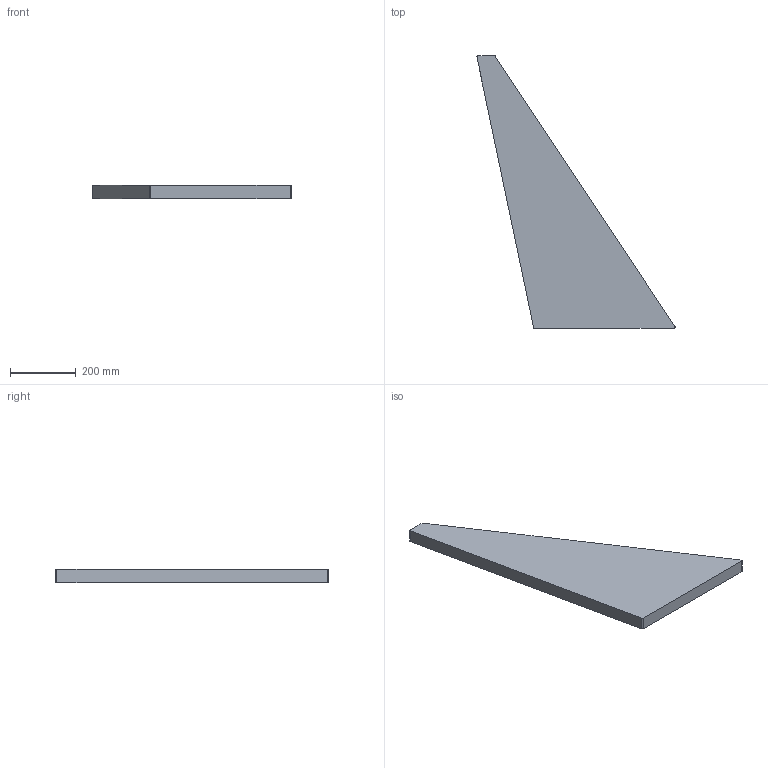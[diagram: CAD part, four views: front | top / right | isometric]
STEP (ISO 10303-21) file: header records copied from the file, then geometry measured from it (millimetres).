
FILE_DESCRIPTION(/* description */ (''),/* implementation_level */ '2;1');
FILE_NAME(/* name */ 'Pos105-Hout D= 40-Hout-3st',/* time_stamp */ '2024-08-06T13:37:43+02:00',/* author */ (''),/* organization */ (''),/* preprocessor_version */ 'ST-DEVELOPER v16.5',/* originating_system */ 'HiCAD 2024 2901.2 Build 361',/* authorisation */ '');
FILE_SCHEMA (('AUTOMOTIVE_DESIGN { 1 0 10303 214 1 1 1 1 }'));
Length unit declared in the file: millimetre
Products named in the file (2): Pos105-Hout D= 40-Hout-3st; Pos0-Antislip-Rubber-0st
Assembly tree (1 placements, depth 2):
  Pos105-Hout D= 40-Hout-3st
    Pos0-Antislip-Rubber-0st
Bounding box: 603.91 x 830 x 40 mm (x, y, z)
Volume: 8116172.7 mm3; surface area: 498835.7 mm2
Topology: 1 solids, 1 shells, 10 faces, 24 edges, 16 vertices
Faces by surface type: plane 6, cylinder 4
Entity records: 580 total; most frequent: DIRECTION 56, CARTESIAN_POINT 52, PRESENTATION_STYLE_ASSIGNMENT 49, COLOUR_RGB 49, DRAUGHTING_PRE_DEFINED_CURVE_FONT 48, CURVE_STYLE 48, OVER_RIDING_STYLED_ITEM 48, ORIENTED_EDGE 48
